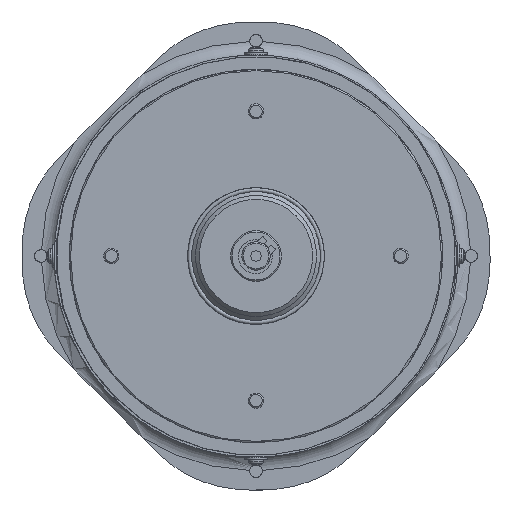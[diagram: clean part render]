
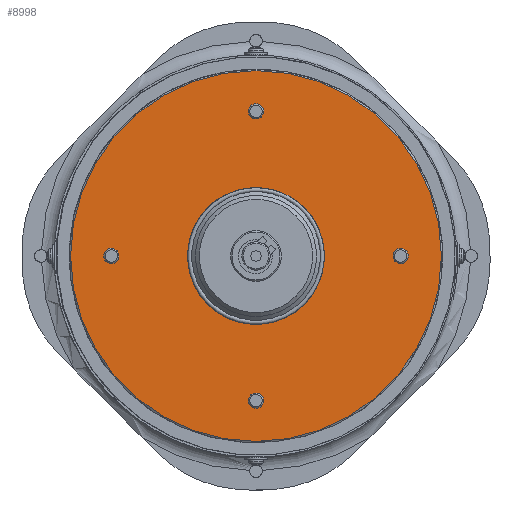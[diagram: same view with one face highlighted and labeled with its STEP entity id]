
A CAD part, front view. The second image highlights one B-rep face of the part: STEP entity #8998.
In plain terms, the highlighted planar face has unit normal (0, -1, 0).
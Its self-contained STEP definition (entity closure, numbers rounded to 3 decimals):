
#1928=PLANE('',#9670);
#2156=FACE_BOUND('',#3048,.T.);
#2157=FACE_BOUND('',#3049,.T.);
#2158=FACE_BOUND('',#3050,.T.);
#2159=FACE_BOUND('',#3051,.T.);
#2160=FACE_BOUND('',#3052,.T.);
#2431=FACE_OUTER_BOUND('',#3047,.T.);
#3047=EDGE_LOOP('',(#6708));
#3048=EDGE_LOOP('',(#6709));
#3049=EDGE_LOOP('',(#6710));
#3050=EDGE_LOOP('',(#6711));
#3051=EDGE_LOOP('',(#6712));
#3052=EDGE_LOOP('',(#6713));
#3744=CIRCLE('',#9671,146.5);
#3745=CIRCLE('',#9672,6.);
#3746=CIRCLE('',#9673,54.012);
#3747=CIRCLE('',#9674,6.);
#3748=CIRCLE('',#9675,6.);
#3749=CIRCLE('',#9676,6.);
#4295=VERTEX_POINT('',#13587);
#4296=VERTEX_POINT('',#13589);
#4297=VERTEX_POINT('',#13591);
#4298=VERTEX_POINT('',#13593);
#4299=VERTEX_POINT('',#13595);
#4300=VERTEX_POINT('',#13597);
#5234=EDGE_CURVE('',#4295,#4295,#3744,.T.);
#5235=EDGE_CURVE('',#4296,#4296,#3745,.T.);
#5236=EDGE_CURVE('',#4297,#4297,#3746,.T.);
#5237=EDGE_CURVE('',#4298,#4298,#3747,.T.);
#5238=EDGE_CURVE('',#4299,#4299,#3748,.T.);
#5239=EDGE_CURVE('',#4300,#4300,#3749,.T.);
#6708=ORIENTED_EDGE('',*,*,#5234,.T.);
#6709=ORIENTED_EDGE('',*,*,#5235,.F.);
#6710=ORIENTED_EDGE('',*,*,#5236,.F.);
#6711=ORIENTED_EDGE('',*,*,#5237,.F.);
#6712=ORIENTED_EDGE('',*,*,#5238,.F.);
#6713=ORIENTED_EDGE('',*,*,#5239,.F.);
#8998=ADVANCED_FACE('',(#2431,#2156,#2157,#2158,#2159,#2160),#1928,.F.);
#9670=AXIS2_PLACEMENT_3D('',#13586,#11039,#11040);
#9671=AXIS2_PLACEMENT_3D('',#13588,#11041,#11042);
#9672=AXIS2_PLACEMENT_3D('',#13590,#11043,#11044);
#9673=AXIS2_PLACEMENT_3D('',#13592,#11045,#11046);
#9674=AXIS2_PLACEMENT_3D('',#13594,#11047,#11048);
#9675=AXIS2_PLACEMENT_3D('',#13596,#11049,#11050);
#9676=AXIS2_PLACEMENT_3D('',#13598,#11051,#11052);
#11039=DIRECTION('center_axis',(0.,1.,0.));
#11040=DIRECTION('ref_axis',(0.,0.,
1.));
#11041=DIRECTION('center_axis',(0.,-1.,0.));
#11042=DIRECTION('ref_axis',(0.,0.,
-1.));
#11043=DIRECTION('center_axis',(0.,-1.,0.));
#11044=DIRECTION('ref_axis',(-0.882,0.,0.472));
#11045=DIRECTION('center_axis',(0.,-1.,0.));
#11046=DIRECTION('ref_axis',(0.,0.,-1.));
#11047=DIRECTION('center_axis',(0.,-1.,0.));
#11048=DIRECTION('ref_axis',(-0.472,0.,-0.882));
#11049=DIRECTION('center_axis',(0.,-1.,0.));
#11050=DIRECTION('ref_axis',(0.882,0.,-0.472));
#11051=DIRECTION('center_axis',(0.,-1.,0.));
#11052=DIRECTION('ref_axis',(0.472,0.,0.882));
#13586=CARTESIAN_POINT('Origin',(285.232,18.514,-272.675));
#13587=CARTESIAN_POINT('',(285.232,18.514,-126.175));
#13588=CARTESIAN_POINT('Origin',(285.232,18.514,-272.675));
#13589=CARTESIAN_POINT('',(176.222,18.514,-275.506));
#13590=CARTESIAN_POINT('Origin',(170.932,18.514,-272.675));
#13591=CARTESIAN_POINT('',(285.232,18.514,-218.663));
#13592=CARTESIAN_POINT('Origin',(285.232,18.514,-272.675));
#13593=CARTESIAN_POINT('',(288.062,18.514,-381.685));
#13594=CARTESIAN_POINT('Origin',(285.232,18.514,-386.975));
#13595=CARTESIAN_POINT('',(394.241,18.514,-269.844));
#13596=CARTESIAN_POINT('Origin',(399.532,18.514,-272.675));
#13597=CARTESIAN_POINT('',(282.401,18.514,-163.665));
#13598=CARTESIAN_POINT('Origin',(285.232,18.514,-158.375));
